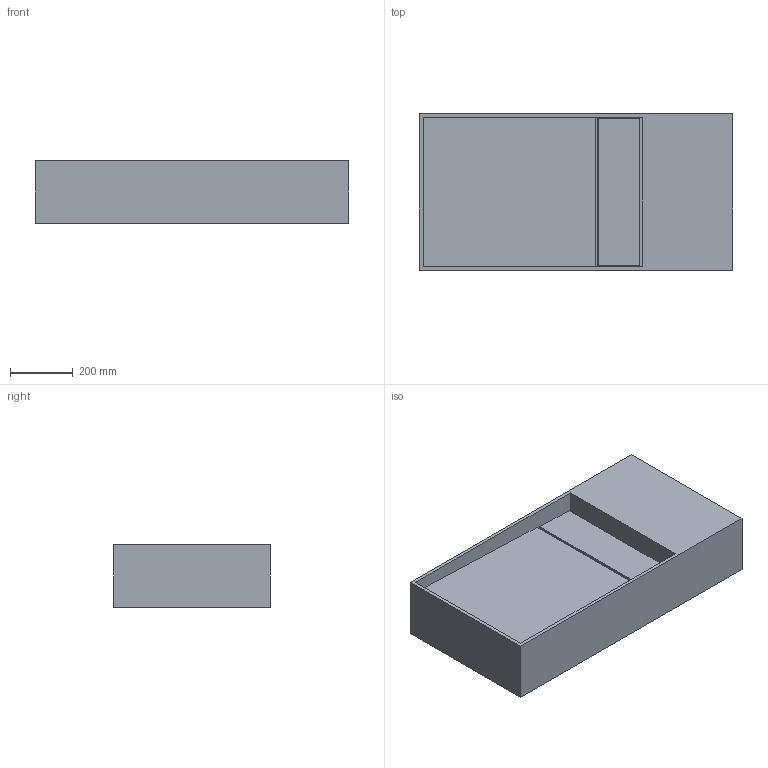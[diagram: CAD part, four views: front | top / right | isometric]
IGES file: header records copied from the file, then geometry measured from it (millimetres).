
Global section: file name: D:\Desktop\GIOVANNI\SCHEDE PRODOTTO\PIANI LAVABO\PARK PLACE\3D\MOMA DESIGN_PIANI LAVABO_PARK PLACE 4.igs; native system: Rhinoceros ( Jan 17 2018 ); preprocessor: Trout Lake IGES 012 Jan 17 2018; date: 230606.154609; units: millimetre
Bounding box: 1000 x 500 x 200 mm (x, y, z)
Surface area: 1923722 mm2 (no closed solid volume)
Topology: 0 solids, 0 shells, 19 faces, 84 edges, 84 vertices
Faces by surface type: bspline 19
